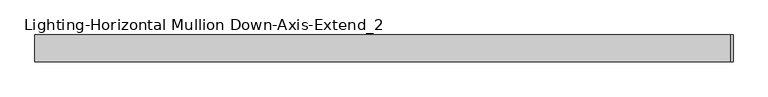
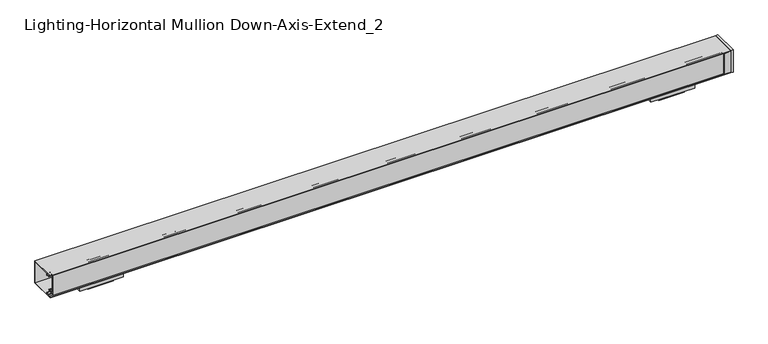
"""IFC4 building model written with IfcOpenShell, lengths in millimetres: light fixture geometry, Lighting-Horizontal Mullion Down-Axis-Extend_2 : EX2WD-900-80-35-SO-4."""

from ifc_helpers import new_model, si_unit, point, frame, frame_2d, origin, place, context, project, spatial, polyline, circle_curve, trimmed, segment, composite_curve, outline, extrude, faceted_brep, source, transform, mapped, element, save


def lighting_horizontal_mullion_down_axis_extend_2_30975e11(model_context):
    return source(origin(), model_context, "Body", "SolidModel", [
        faceted_brep([(-711.80706, 69.4002107, 31.75), (-711.80706, 20.6375, 31.75), (-711.80706, 20.6375, 6.35), (-711.80706, 69.4002107, 6.35), (-830.50634, 69.4002107, 31.75), (-830.50634, 69.4002107, 6.35), (-830.50634, 20.6375, 6.35), (-830.50634, 20.6375, 31.75), (-806.2908591, 64.0180553, 0.0), (-806.2908591, 64.0180553, 6.35), (-736.0225409, 64.0180553, 6.35), (-736.0225409, 64.0180553, 0.0), (-806.2908591, 26.0196553, 0.0), (-736.0225409, 26.0196553, 0.0), (-806.2908591, 26.0196553, 6.35), (-736.0225409, 26.0196553, 6.35)], [[[0, 1, 2, 3]], [[4, 5, 6, 7]], [[8, 9, 10, 11]], [[12, 8, 11, 13]], [[14, 12, 13, 15]], [[1, 0, 4, 7]], [[0, 3, 5, 4]], [[6, 5, 3, 2], [14, 15, 10, 9]], [[6, 2, 1, 7]], [[14, 9, 8, 12]], [[10, 15, 13, 11]]]),
        faceted_brep([(842.68564, 69.4002107, 31.75), (842.68564, 20.6375, 31.75), (842.68564, 20.6375, 6.35), (842.68564, 69.4002107, 6.35), (723.98636, 69.4002107, 31.75), (723.98636, 69.4002107, 6.35), (723.98636, 20.6375, 6.35), (723.98636, 20.6375, 31.75), (748.2018409, 64.0180553, 0.0), (748.2018409, 64.0180553, 6.35), (818.4701591, 64.0180553, 6.35), (818.4701591, 64.0180553, 0.0), (748.2018409, 26.0196553, 0.0), (818.4701591, 26.0196553, 0.0), (748.2018409, 26.0196553, 6.35), (818.4701591, 26.0196553, 6.35)], [[[0, 1, 2, 3]], [[4, 5, 6, 7]], [[8, 9, 10, 11]], [[12, 8, 11, 13]], [[14, 12, 13, 15]], [[1, 0, 4, 7]], [[0, 3, 5, 4]], [[6, 5, 3, 2], [14, 15, 10, 9]], [[6, 2, 1, 7]], [[14, 9, 8, 12]], [[10, 15, 13, 11]]]),
        extrude(outline(polyline([(911.0726, 1.1017139), (911.0726, 2.57175), (911.86635, 2.57175), (911.86635, 1.778), (918.718, 1.778), (918.718, 4.5842019), (929.386, 4.5842019), (929.386, 0.0), (911.9971437, 0.0), (911.0726, 1.1017139)])), frame((0.0, 0.0, 33.782), z_axis=(0.0, 0.0, 1.0), x_axis=(1.0, 0.0, 0.0)), (0.0, 0.0, 1.0), 59.944),
        extrude(outline(polyline([(929.386, 0.0), (929.386, 71.4375), (935.736, 71.4375), (935.736, 0.0), (929.386, 0.0)])), frame((0.0, 0.0, 31.75), z_axis=(0.0, 0.0, 1.0), x_axis=(1.0, 0.0, 0.0)), (0.0, 0.0, 1.0), 64.008),
        extrude(outline(composite_curve([segment(polyline([(4.8895009, 87.9267262), (4.8895009, 39.5812738), (11.3521263, 39.2425819)]), True, "CONTINUOUS"), segment(trimmed(circle_curve(frame_2d((14.351, 36.4998)), 4.064), [point((11.3521263, 39.2425819))], [point((17.9580097, 38.3721186))], False, "CARTESIAN"), True, "CONTINUOUS"), segment(trimmed(circle_curve(frame_2d((17.1691543, 41.604656)), 3.3274001), [point((17.9580097, 38.3721186))], [point((19.4557425, 39.1874044))], True, "CARTESIAN"), True, "CONTINUOUS"), segment(trimmed(circle_curve(frame_2d((12.4214292, 46.6236823)), 10.2362001), [point((19.4557425, 39.1874044))], [point((20.6551445, 40.5420934))], True, "CARTESIAN"), True, "CONTINUOUS"), segment(trimmed(circle_curve(frame_2d((21.3191538, 40.0516427)), 0.8255), [point((20.6551445, 40.5420934))], [point((21.9831631, 39.561192))], False, "CARTESIAN"), True, "CONTINUOUS"), segment(trimmed(circle_curve(frame_2d((12.4214283, 46.6236831)), 11.8872013), [point((21.9831631, 39.561192))], [point((20.5903092, 37.9880048))], False, "CARTESIAN"), True, "CONTINUOUS"), segment(trimmed(circle_curve(frame_2d((17.1691543, 41.604656)), 4.9784001), [point((20.5903092, 37.9880048))], [point((16.75974, 36.6431193))], False, "CARTESIAN"), True, "CONTINUOUS"), segment(trimmed(circle_curve(frame_2d((14.351, 36.4998)), 2.413), [point((16.75974, 36.6431193))], [point((12.7205342, 38.2786059))], True, "CARTESIAN"), True, "CONTINUOUS"), segment(trimmed(circle_curve(frame_2d((11.0042544, 40.1510331)), 2.54), [point((12.7205342, 38.2786059))], [point((10.8713211, 37.6145141))], False, "CARTESIAN"), True, "CONTINUOUS"), segment(polyline([(10.8713211, 37.6145141), (4.8895009, 37.928008), (4.8895009, 34.925), (2.9845, 34.925), (2.9845, 92.583), (4.8895009, 92.583), (4.8895009, 89.579992), (10.8713211, 89.8934859)]), True, "CONTINUOUS"), segment(trimmed(circle_curve(frame_2d((11.0042544, 87.3569669)), 2.54), [point((10.8713211, 89.8934859))], [point((12.7205342, 89.2293941))], False, "CARTESIAN"), True, "CONTINUOUS"), segment(trimmed(circle_curve(frame_2d((14.351, 91.0082)), 2.413), [point((12.7205342, 89.2293941))], [point((16.75974, 90.8648807))], True, "CARTESIAN"), True, "CONTINUOUS"), segment(trimmed(circle_curve(frame_2d((17.1691543, 85.903344)), 4.9784001), [point((16.75974, 90.8648807))], [point((20.5903092, 89.5199952))], False, "CARTESIAN"), True, "CONTINUOUS"), segment(trimmed(circle_curve(frame_2d((12.4214283, 80.8843169)), 11.8872013), [point((20.5903092, 89.5199952))], [point((21.9831631, 87.946808))], False, "CARTESIAN"), True, "CONTINUOUS"), segment(trimmed(circle_curve(frame_2d((21.3191538, 87.4563573)), 0.8255), [point((21.9831631, 87.946808))], [point((20.6551445, 86.9659066))], False, "CARTESIAN"), True, "CONTINUOUS"), segment(trimmed(circle_curve(frame_2d((12.4214292, 80.8843177)), 10.2362001), [point((20.6551445, 86.9659066))], [point((19.4557425, 88.3205956))], True, "CARTESIAN"), True, "CONTINUOUS"), segment(trimmed(circle_curve(frame_2d((17.1691543, 85.903344)), 3.3274001), [point((19.4557425, 88.3205956))], [point((17.9580097, 89.1358814))], True, "CARTESIAN"), True, "CONTINUOUS"), segment(trimmed(circle_curve(frame_2d((14.351, 91.0082)), 4.064), [point((17.9580097, 89.1358814))], [point((11.3521263, 88.2654181))], False, "CARTESIAN"), True, "CONTINUOUS"), segment(polyline([(11.3521263, 88.2654181), (4.8895009, 87.9267262)]), True, "CONTINUOUS")], self_intersect=False)), frame((-914.4, 0.0, 0.0), z_axis=(1.0, 0.0, 0.0), x_axis=(0.0, 1.0, 0.0)), (0.0, 0.0, 1.0), 1828.8),
        extrude(outline(composite_curve([segment(polyline([(14.9098, 93.726), (14.9098, 91.8865797)]), True, "CONTINUOUS"), segment(trimmed(circle_curve(frame_2d((14.9098, 90.3802297)), 1.5063501), [point((14.9098, 91.8865797))], [point((16.2143374, 89.6270546))], False, "CARTESIAN"), True, "CONTINUOUS"), segment(trimmed(circle_curve(frame_2d((14.1511921, 90.8182121)), 2.382315), [point((16.2143374, 89.6270546))], [point((13.9591318, 88.4436516))], False, "CARTESIAN"), True, "CONTINUOUS"), segment(polyline([(13.9591318, 88.4436516), (11.1252, 91.821), (12.8778, 91.821), (12.8778, 93.726), (6.35, 93.726), (6.35, 91.821), (7.874, 91.821), (7.7874748, 90.17), (5.08, 90.17), (5.08, 93.726), (0.0, 93.726), (0.0, 95.758), (71.4375, 95.758), (71.4375, 31.75), (0.0, 31.75), (0.0, 33.782), (5.08, 33.782), (5.08, 37.338), (7.7874748, 37.338), (7.874, 35.687), (6.35, 35.687), (6.35, 33.782), (12.8778, 33.782), (12.8778, 35.687), (11.1252, 35.687), (13.9591318, 39.0643484)]), True, "CONTINUOUS"), segment(trimmed(circle_curve(frame_2d((14.1511921, 36.6897879)), 2.382315), [point((13.9591318, 39.0643484))], [point((16.2143374, 37.8809454))], False, "CARTESIAN"), True, "CONTINUOUS"), segment(trimmed(circle_curve(frame_2d((14.9098, 37.1277703)), 1.5063501), [point((16.2143374, 37.8809454))], [point((14.9098, 35.6214203))], False, "CARTESIAN"), True, "CONTINUOUS"), segment(polyline([(14.9098, 35.6214203), (14.9098, 33.782), (69.4055, 33.782), (69.4055, 93.726), (14.9098, 93.726)]), True, "CONTINUOUS")], self_intersect=False)), frame((-923.5567, 0.0, 0.0), z_axis=(1.0, 0.0, 0.0), x_axis=(0.0, 1.0, 0.0)), (0.0, 0.0, 1.0), 1852.9427),
    ])


if __name__ == "__main__":
    model = new_model("IFC4")
    model_context = context("Model", 3, world=origin())
    ifc_project = project(units=[si_unit("LENGTHUNIT", "METRE", prefix="MILLI")], contexts=[model_context])
    site = spatial("IfcSite", under=ifc_project)
    building = spatial("IfcBuilding", under=site)
    placement = place(None, origin())
    lighting_horizontal_mullion_down_axis_extend_2_shape = lighting_horizontal_mullion_down_axis_extend_2_30975e11(model_context)
    element("IfcLightFixture", 1, ObjectType="Lighting-Horizontal Mullion Down-Axis-Extend_2 : EX2WD-900-80-35-SO-4", at=placement, inside=building, context=model_context, shape_type="MappedRepresentation", body=[
        mapped(lighting_horizontal_mullion_down_axis_extend_2_shape, transform((0.0, 0.0, 0.0), x_axis=(1.0, 0.0, 0.0), y_axis=(0.0, 1.0, 0.0), z_axis=(0.0, 0.0, 1.0))),
    ])
    save(model, "model.ifc")
